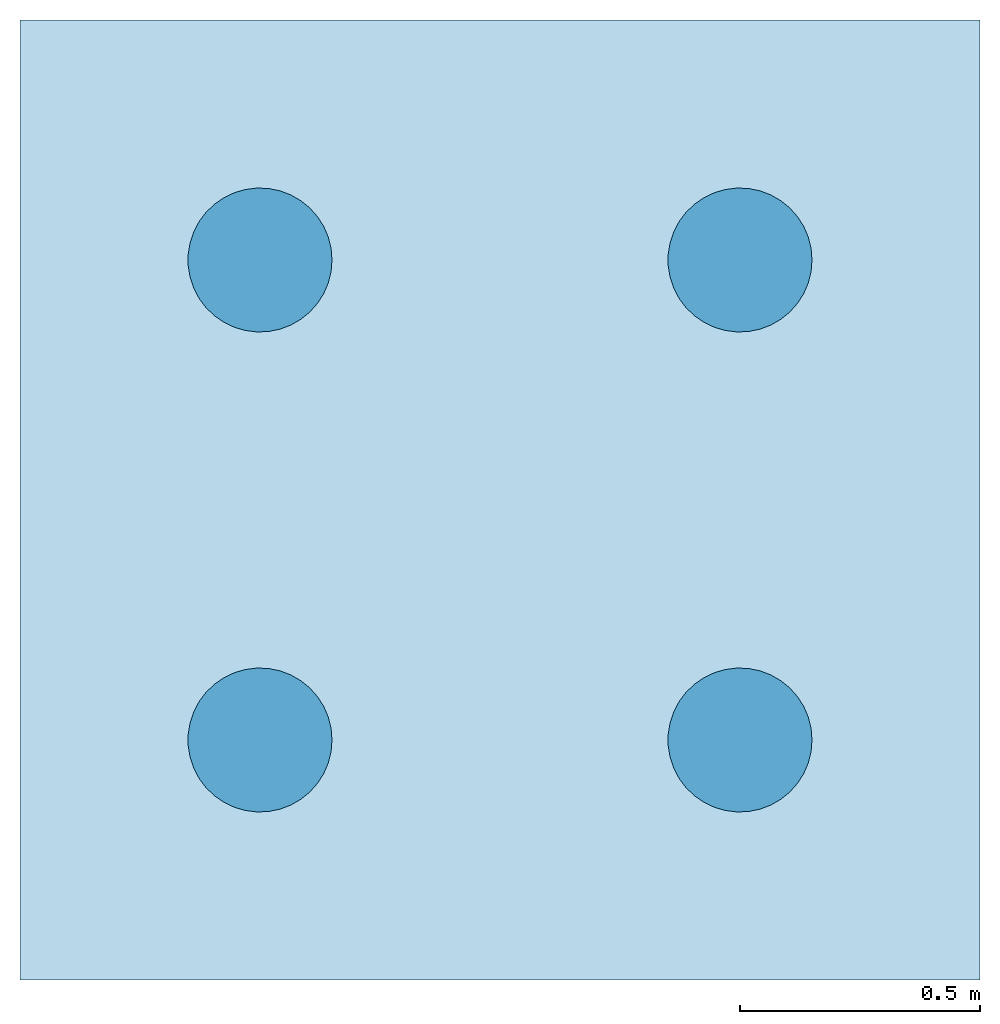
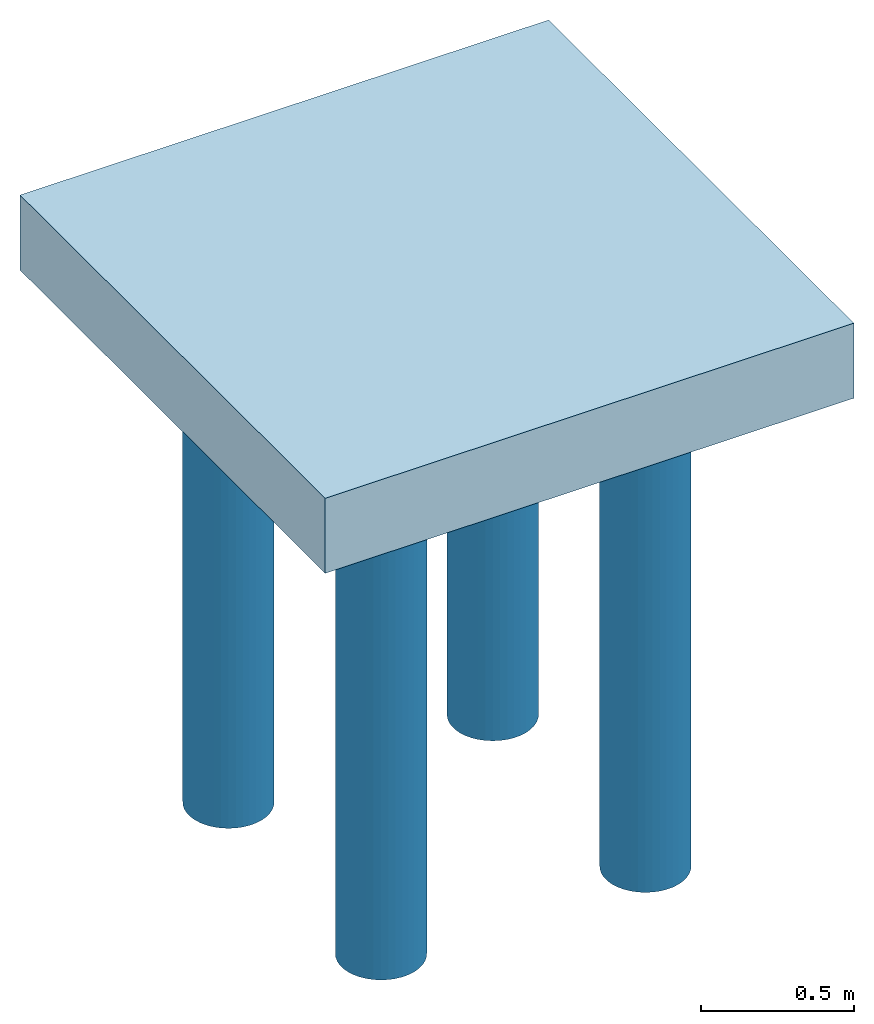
# One storey: 4 piles, 1 slab.
"""IFC4 building model written with IfcOpenShell, lengths in centimetres."""

from ifc_helpers import new_model, si_unit, derived_unit, frame, origin, origin_with_axes, origin_2d_with_axis, place, context, project, spatial, polyline, circle, outline, extrude, material, element, save


model = new_model("IFC4")

# Units and contexts
model_context = context("Model", 3, precision=1e-05, world=origin_with_axes(), identifier="Body")
ifc_project = project(units=[si_unit("LENGTHUNIT", "METRE", prefix="CENTI"), si_unit("VOLUMEUNIT", "CUBIC_METRE"), si_unit("AREAUNIT", "SQUARE_METRE"), si_unit("POWERUNIT", "WATT"), si_unit("LUMINOUSFLUXUNIT", "LUMEN"), si_unit("ELECTRICCURRENTUNIT", "AMPERE"), si_unit("PRESSUREUNIT", "PASCAL", prefix="KILO"), si_unit("MASSUNIT", "GRAM", prefix="KILO"), si_unit("PLANEANGLEUNIT", "RADIAN"), derived_unit("VOLUMETRICFLOWRATEUNIT", [(si_unit("LENGTHUNIT", "METRE"), 3), (si_unit("TIMEUNIT", "SECOND"), -1)])], contexts=[model_context])

# Site, building, storey
site_placement = place(None, origin_with_axes())
site = spatial("IfcSite", under=ifc_project, at=site_placement)
building_placement = place(site_placement, origin())
building = spatial("IfcBuilding", under=site, at=building_placement)
storey_placement = place(building_placement, origin_with_axes())
storey = spatial("IfcBuildingStorey", under=building, at=storey_placement, Name="Radier", CompositionType="ELEMENT", Elevation=0.0)

# Piles
ifc_material = material(Name="Concreto")
for number, where, z_axis, x_axis, name in (
    (1, (50.0, 150.0, 0.0), (0.0, 0.0, 1.0), (1.0, 0.0, 0.0), "E1"),
    (2, (150.0, 150.0, 0.0), (0.0, 0.0, 1.0), (1.0, 0.0, 0.0), "E2"),
    (3, (50.0, 50.0, 0.0), (0.0, 0.0, 1.0), (1.0, 0.0, 0.0), "E3"),
    (4, (150.0, 50.0, 0.0), (0.0, 0.0, 1.0), (1.0, 0.0, 0.0), "E4"),
):
    element("IfcPile", number, at=place(storey_placement, frame(where, z_axis=z_axis, x_axis=x_axis)), inside=storey, material=ifc_material, Name=name, context=model_context, shape_type="SolidModel", body=[
        extrude(circle(Radius=15.0, at=origin_2d_with_axis()), frame((0.0, 0.0, -200.0), z_axis=(0.0, 0.0, 1.0), x_axis=(1.0, 0.0, 0.0)), (0.0, 0.0, 1.0), 200.0),
    ])

# Slab
slab_placement = place(storey_placement, frame((100.0, 100.0, 30.0), z_axis=(0.0, 0.0, 1.0), x_axis=(1.0, 0.0, 0.0)))
element("IfcSlab", 5, at=slab_placement, inside=storey, material=ifc_material, Name="L1", PredefinedType="FLOOR", context=model_context, shape_type="SolidModel", body=[
    extrude(outline(polyline([(100.0, 100.0), (-100.0, 100.0), (-100.0, -100.0), (100.0, -100.0), (100.0, 100.0), (100.0, 100.0)])), frame((0.0, 0.0, -30.0), z_axis=(0.0, 0.0, 1.0), x_axis=(1.0, 0.0, 0.0)), (0.0, 0.0, 1.0), 30.0),
])

save(model, "model.ifc")
